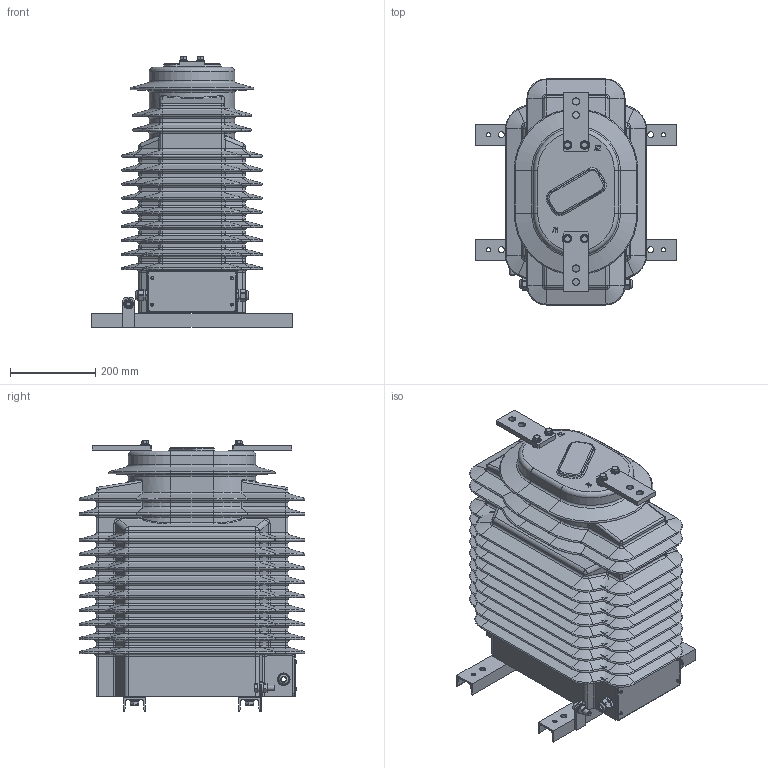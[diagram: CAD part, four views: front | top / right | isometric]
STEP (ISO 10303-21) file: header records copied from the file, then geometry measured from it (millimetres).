
FILE_DESCRIPTION(('STEP AP203'), '1');
FILE_NAME('ﾒﾎﾋ-ﾍﾒﾇ-35-IV-12 ﾓﾕﾋ1, ﾒ1', '2025-05-23T04:53:47', ('UNSPECIFIED'), ('UNSPECIFIED'), 'ASCON STEP Converter 1.3', 'ASCON Math Kernel', '');
FILE_SCHEMA(('CONFIG_CONTROL_DESIGN'));
Length unit declared in the file: millimetre
Products named in the file (20): Ãàéêà ñïåöèàëüíàÿ Ì4 ÍÒÇ.01.01.10.00.002
Assembly tree (50 placements, depth 4):
  (unnamed)
    (unnamed)
    (unnamed)  x2
    (unnamed)  x2
    (unnamed)  x2
    (unnamed)  x4
    (unnamed)  x4
    (unnamed)  x4
    (unnamed)
    Ãàéêà ñïåöèàëüíàÿ Ì4 ÍÒÇ.01.01.10.00.002  x4
    (unnamed)
    (unnamed)  x3
    (unnamed)
      (unnamed)
      (unnamed)
        (unnamed)  x2
        (unnamed)
        (unnamed)
        (unnamed)
        (unnamed)
    (unnamed)
    (unnamed)  x4
    (unnamed)  x4
    (unnamed)  x4
Bounding box: 470 x 530 x 635 mm (x, y, z)
Volume: 810253.5 mm3; surface area: 2608243.7 mm2
Topology: 47 solids, 48 shells, 2660 faces, 5813 edges, 3193 vertices
Faces by surface type: cylinder 956, plane 853, torus 335, cone 291, sphere 78, bspline 76, revolution 71
Full cylindrical faces by diameter (mm): 4 x4, 4.3 x4, 4.5 x4, 5 x24, 6 x4, 7 x4, 8 x8, 8.5 x4, 10 x12, 10.2 x4, 10.5 x4, 10.647 x1, 12 x7, 13 x11, 14 x8, 15 x4, 17 x2, 19 x4, 20 x12, 22 x2, 22.3 x2, 24 x6, 25 x2, 30 x4, 35 x4
Entity records: 87140 total; most frequent: CARTESIAN_POINT 16314, DIRECTION 11420, ORIENTED_EDGE 9731, EDGE_CURVE 4868, AXIS2_PLACEMENT_3D 4456, VERTEX_POINT 2758, EDGE_LOOP 2571, LINE 2437
